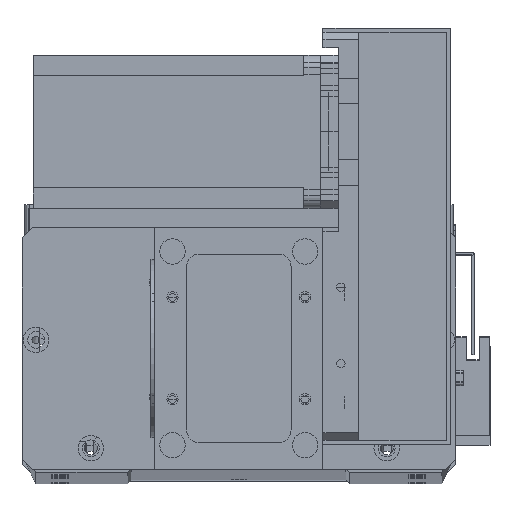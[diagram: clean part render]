
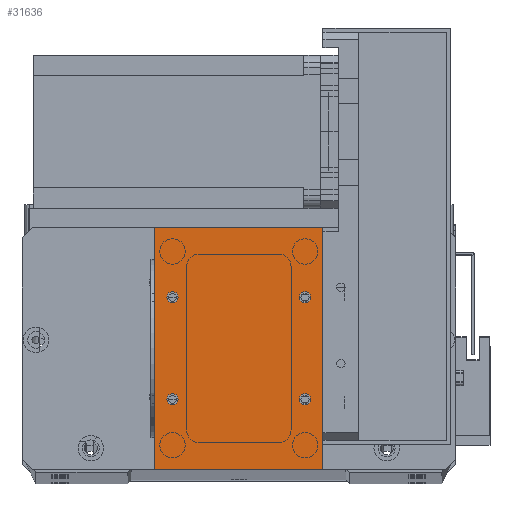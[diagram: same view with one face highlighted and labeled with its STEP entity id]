
A CAD part, top view. The second image highlights one B-rep face of the part: STEP entity #31636.
In plain terms, the highlighted planar face has unit normal (0, 0, 1).
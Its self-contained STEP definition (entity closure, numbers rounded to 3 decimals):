
#784 = VERTEX_POINT ( 'NONE', #20583 ) ;
#831 = CARTESIAN_POINT ( 'NONE',  ( 56.75, 67.5, 2. ) ) ;
#1193 = AXIS2_PLACEMENT_3D ( 'NONE', #25353, #9653, #27967 ) ;
#1425 = DIRECTION ( 'NONE',  ( 0., 0., 1. ) ) ;
#1453 = CARTESIAN_POINT ( 'NONE',  ( 7., 67.5, 2. ) ) ;
#1720 = LINE ( 'NONE', #20260, #25883 ) ;
#3339 = CARTESIAN_POINT ( 'NONE',  ( 7., 27.5, 2. ) ) ;
#4055 = DIRECTION ( 'NONE',  ( 0., 0., 1. ) ) ;
#4094 = DIRECTION ( 'NONE',  ( 1., 0., 0. ) ) ;
#4266 = FACE_OUTER_BOUND ( 'NONE', #18577, .T. ) ;
#4522 = ORIENTED_EDGE ( 'NONE', *, *, #21357, .T. ) ;
#4961 = EDGE_CURVE ( 'NONE', #20688, #8317, #7062, .T. ) ;
#4996 = EDGE_LOOP ( 'NONE', ( #32334, #26309 ) ) ;
#5363 = CARTESIAN_POINT ( 'NONE',  ( 0., 95., 2. ) ) ;
#5957 = DIRECTION ( 'NONE',  ( 1., 0., 0. ) ) ;
#6009 = EDGE_CURVE ( 'NONE', #8317, #20688, #26256, .T. ) ;
#6120 = AXIS2_PLACEMENT_3D ( 'NONE', #19703, #4055, #22321 ) ;
#6226 = CARTESIAN_POINT ( 'NONE',  ( 0., 95., 2. ) ) ;
#6713 = DIRECTION ( 'NONE',  ( 1., 0., 0. ) ) ;
#6993 = DIRECTION ( 'NONE',  ( 0., 0., -1. ) ) ;
#7062 = CIRCLE ( 'NONE', #23371, 2.25 ) ;
#7352 = VERTEX_POINT ( 'NONE', #18625 ) ;
#8010 = EDGE_LOOP ( 'NONE', ( #22752, #33313 ) ) ;
#8183 = EDGE_CURVE ( 'NONE', #784, #7352, #14540, .T. ) ;
#8317 = VERTEX_POINT ( 'NONE', #28071 ) ;
#8417 = AXIS2_PLACEMENT_3D ( 'NONE', #24580, #8906, #27214 ) ;
#8798 = EDGE_CURVE ( 'NONE', #7352, #784, #24318, .T. ) ;
#8906 = DIRECTION ( 'NONE',  ( 0., 0., 1. ) ) ;
#9501 = VECTOR ( 'NONE', #24532, 1000. ) ;
#9517 = CIRCLE ( 'NONE', #24724, 2.25 ) ;
#9520 = PLANE ( 'NONE',  #32360 ) ;
#9653 = DIRECTION ( 'NONE',  ( 0., 0., 1. ) ) ;
#10443 = ORIENTED_EDGE ( 'NONE', *, *, #33249, .T. ) ;
#10820 = VERTEX_POINT ( 'NONE', #28397 ) ;
#11193 = FACE_BOUND ( 'NONE', #30125, .T. ) ;
#11307 = CARTESIAN_POINT ( 'NONE',  ( 7., 67.5, 2. ) ) ;
#11703 = LINE ( 'NONE', #17508, #24806 ) ;
#12030 = FACE_BOUND ( 'NONE', #4996, .T. ) ;
#12383 = DIRECTION ( 'NONE',  ( 0., -1., 0. ) ) ;
#12415 = EDGE_LOOP ( 'NONE', ( #23966, #17219 ) ) ;
#12592 = ORIENTED_EDGE ( 'NONE', *, *, #14968, .F. ) ;
#12975 = CIRCLE ( 'NONE', #1193, 2.25 ) ;
#13847 = VERTEX_POINT ( 'NONE', #26001 ) ;
#13955 = DIRECTION ( 'NONE',  ( 1., 0., 0. ) ) ;
#14027 = CARTESIAN_POINT ( 'NONE',  ( 66., 0., 2. ) ) ;
#14540 = CIRCLE ( 'NONE', #22715, 2.25 ) ;
#14968 = EDGE_CURVE ( 'NONE', #10820, #17782, #12975, .T. ) ;
#15093 = CARTESIAN_POINT ( 'NONE',  ( 59., 27.5, 2. ) ) ;
#15324 = CARTESIAN_POINT ( 'NONE',  ( 0., 0., 2. ) ) ;
#15749 = CARTESIAN_POINT ( 'NONE',  ( 4.75, 27.5, 2. ) ) ;
#15765 = CIRCLE ( 'NONE', #8417, 2.25 ) ;
#17102 = CARTESIAN_POINT ( 'NONE',  ( 59., 67.5, 2. ) ) ;
#17219 = ORIENTED_EDGE ( 'NONE', *, *, #4961, .F. ) ;
#17508 = CARTESIAN_POINT ( 'NONE',  ( 66., 0., 2. ) ) ;
#17716 = DIRECTION ( 'NONE',  ( 1., 0., 0. ) ) ;
#17782 = VERTEX_POINT ( 'NONE', #15749 ) ;
#18167 = FACE_BOUND ( 'NONE', #8010, .T. ) ;
#18577 = EDGE_LOOP ( 'NONE', ( #10443, #4522, #22426, #25757 ) ) ;
#18615 = EDGE_CURVE ( 'NONE', #28145, #19606, #22589, .T. ) ;
#18625 = CARTESIAN_POINT ( 'NONE',  ( 9.25, 67.5, 2. ) ) ;
#18880 = CARTESIAN_POINT ( 'NONE',  ( 66., 95., 2. ) ) ;
#19457 = LINE ( 'NONE', #27461, #32526 ) ;
#19606 = VERTEX_POINT ( 'NONE', #5363 ) ;
#19703 = CARTESIAN_POINT ( 'NONE',  ( 59., 67.5, 2. ) ) ;
#19710 = DIRECTION ( 'NONE',  ( 1., 0., 0. ) ) ;
#19729 = DIRECTION ( 'NONE',  ( 0., 0., 1. ) ) ;
#20125 = DIRECTION ( 'NONE',  ( 0., 1., 0. ) ) ;
#20260 = CARTESIAN_POINT ( 'NONE',  ( 0., 0., 2. ) ) ;
#20583 = CARTESIAN_POINT ( 'NONE',  ( 4.75, 67.5, 2. ) ) ;
#20688 = VERTEX_POINT ( 'NONE', #831 ) ;
#20808 = CARTESIAN_POINT ( 'NONE',  ( 61.25, 27.5, 2. ) ) ;
#20915 = EDGE_CURVE ( 'NONE', #33706, #28145, #11703, .T. ) ;
#21277 = EDGE_CURVE ( 'NONE', #32230, #13847, #15765, .T. ) ;
#21357 = EDGE_CURVE ( 'NONE', #29401, #33706, #19457, .T. ) ;
#21642 = DIRECTION ( 'NONE',  ( 0., 0., 1. ) ) ;
#22321 = DIRECTION ( 'NONE',  ( 1., 0., 0. ) ) ;
#22426 = ORIENTED_EDGE ( 'NONE', *, *, #20915, .T. ) ;
#22589 = LINE ( 'NONE', #6226, #9501 ) ;
#22657 = CARTESIAN_POINT ( 'NONE',  ( 0., 0., 2. ) ) ;
#22715 = AXIS2_PLACEMENT_3D ( 'NONE', #1453, #19729, #4094 ) ;
#22752 = ORIENTED_EDGE ( 'NONE', *, *, #21277, .F. ) ;
#23169 = AXIS2_PLACEMENT_3D ( 'NONE', #11307, #29618, #13955 ) ;
#23371 = AXIS2_PLACEMENT_3D ( 'NONE', #17102, #1425, #19710 ) ;
#23959 = EDGE_CURVE ( 'NONE', #13847, #32230, #9517, .T. ) ;
#23966 = ORIENTED_EDGE ( 'NONE', *, *, #6009, .F. ) ;
#24318 = CIRCLE ( 'NONE', #23169, 2.25 ) ;
#24532 = DIRECTION ( 'NONE',  ( -1., 0., 0. ) ) ;
#24580 = CARTESIAN_POINT ( 'NONE',  ( 59., 27.5, 2. ) ) ;
#24724 = AXIS2_PLACEMENT_3D ( 'NONE', #15093, #33332, #17716 ) ;
#24806 = VECTOR ( 'NONE', #20125, 1000. ) ;
#25320 = DIRECTION ( 'NONE',  ( -1., 0., 0. ) ) ;
#25353 = CARTESIAN_POINT ( 'NONE',  ( 7., 27.5, 2. ) ) ;
#25757 = ORIENTED_EDGE ( 'NONE', *, *, #18615, .T. ) ;
#25883 = VECTOR ( 'NONE', #12383, 1000. ) ;
#26001 = CARTESIAN_POINT ( 'NONE',  ( 56.75, 27.5, 2. ) ) ;
#26256 = CIRCLE ( 'NONE', #6120, 2.25 ) ;
#26309 = ORIENTED_EDGE ( 'NONE', *, *, #8183, .F. ) ;
#27214 = DIRECTION ( 'NONE',  ( 1., 0., 0. ) ) ;
#27336 = AXIS2_PLACEMENT_3D ( 'NONE', #3339, #21642, #5957 ) ;
#27404 = ORIENTED_EDGE ( 'NONE', *, *, #30841, .F. ) ;
#27461 = CARTESIAN_POINT ( 'NONE',  ( 0., 0., 2. ) ) ;
#27967 = DIRECTION ( 'NONE',  ( 1., 0., 0. ) ) ;
#28071 = CARTESIAN_POINT ( 'NONE',  ( 61.25, 67.5, 2. ) ) ;
#28145 = VERTEX_POINT ( 'NONE', #18880 ) ;
#28397 = CARTESIAN_POINT ( 'NONE',  ( 9.25, 27.5, 2. ) ) ;
#28858 = CIRCLE ( 'NONE', #27336, 2.25 ) ;
#29401 = VERTEX_POINT ( 'NONE', #15324 ) ;
#29618 = DIRECTION ( 'NONE',  ( 0., 0., 1. ) ) ;
#30125 = EDGE_LOOP ( 'NONE', ( #12592, #27404 ) ) ;
#30841 = EDGE_CURVE ( 'NONE', #17782, #10820, #28858, .T. ) ;
#31636 = ADVANCED_FACE ( 'NONE', ( #12030, #32067, #18167, #11193, #4266 ), #9520, .F. ) ;
#32067 = FACE_BOUND ( 'NONE', #12415, .T. ) ;
#32230 = VERTEX_POINT ( 'NONE', #20808 ) ;
#32334 = ORIENTED_EDGE ( 'NONE', *, *, #8798, .F. ) ;
#32360 = AXIS2_PLACEMENT_3D ( 'NONE', #22657, #6993, #25320 ) ;
#32526 = VECTOR ( 'NONE', #6713, 1000. ) ;
#33249 = EDGE_CURVE ( 'NONE', #19606, #29401, #1720, .T. ) ;
#33313 = ORIENTED_EDGE ( 'NONE', *, *, #23959, .F. ) ;
#33332 = DIRECTION ( 'NONE',  ( 0., 0., 1. ) ) ;
#33706 = VERTEX_POINT ( 'NONE', #14027 ) ;
